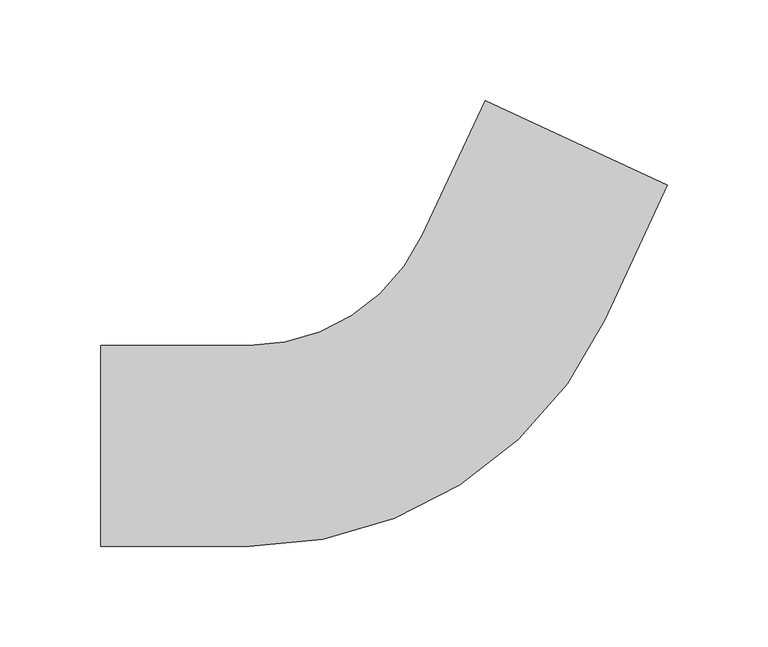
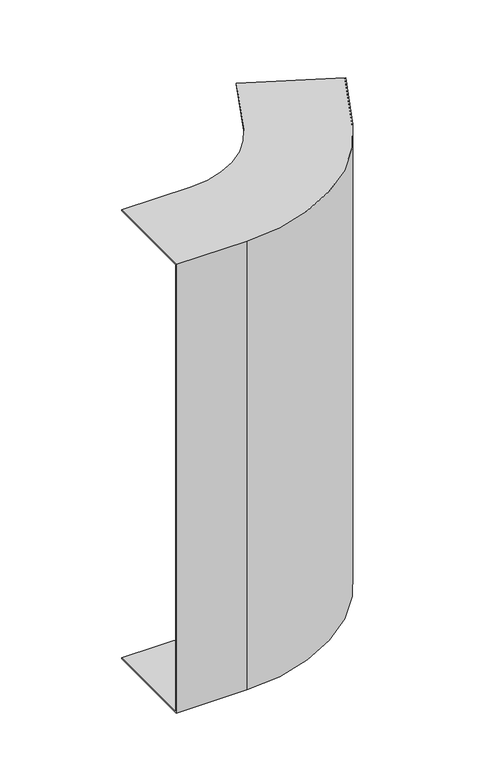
"""IFC4 building model written with IfcOpenShell, lengths in millimetres: cable carrier fitting geometry, BAKS_KK_Vertical bend EXTERNAL_LU : LUNJ_H100."""

from ifc_helpers import new_model, si_unit, frame, origin, place, context, project, spatial, polyline, circle_curve, source, transform, mapped, element, save
from ifc_brep_helpers import plane_surface, cylinder_surface, revolved_surface, advanced_brep


def cable_carrier_fitting_31e9e336(model_context):
    return source(origin(), model_context, "Body", "AdvancedBrep", [
        advanced_brep(
        [(-166.3751878, 50.0, 250.0), (-166.3751878, 50.0, 249.0), (-166.3751878, -49.0, 249.0), (-166.3751878, -49.0, -249.0), (-166.3751878, 50.0, -249.0), (-166.3751878, 50.0, -250.0), (-166.3751878, -50.0, -250.0), (-166.3751878, -50.0, 250.0), (24.9978033, 171.9180414, 250.0), (115.628582, 129.6562152, 250.0), (115.628582, 129.6562152, -250.0), (24.9978033, 171.9180414, -250.0), (24.9978033, 171.9180414, -249.0), (114.7222742, 130.0788335, -249.0), (114.7222742, 130.0788335, 249.0), (24.9978033, 171.9180414, 249.0), (-92.3751878, -50.0, 250.0), (84.3548307, 62.589439, 250.0), (-6.275948, 104.8512651, 250.0), (-92.3751878, 50.0, 250.0), (-92.3751878, -50.0, -250.0), (-92.3751878, 50.0, -250.0), (-6.275948, 104.8512651, -250.0), (84.3548307, 62.589439, -250.0), (-92.3751878, 50.0, -249.0), (-92.3751878, -49.0, -249.0), (83.4485229, 63.0120572, -249.0), (-6.275948, 104.8512651, -249.0), (-92.3751878, -49.0, 249.0), (-92.3751878, 50.0, 249.0), (-6.275948, 104.8512651, 249.0), (83.4485229, 63.0120572, 249.0)],
        [
            (0, 1),
            (1, 2),
            (2, 3),
            (3, 4),
            (4, 5),
            (5, 6),
            (6, 7),
            (7, 0),
            (8, 9),
            (9, 10),
            (10, 11),
            (11, 12),
            (12, 13),
            (13, 14),
            (14, 15),
            (15, 8),
            (7, 16),
            (16, 17, circle_curve(frame((-92.3751878, 145.0, 250.0), z_axis=(0.0, 0.0, 1.0), x_axis=(0.0, -1.0, 0.0)), 195.0)),
            (17, 9),
            (8, 18),
            (18, 19, circle_curve(frame((-92.3751878, 145.0, 250.0), z_axis=(0.0, 0.0, -1.0), x_axis=(0.0, -1.0, 0.0)), 95.0)),
            (19, 0),
            (6, 20),
            (20, 16),
            (5, 21),
            (21, 22, circle_curve(frame((-92.3751878, 145.0, -250.0), z_axis=(0.0, 0.0, 1.0), x_axis=(0.0, -1.0, 0.0)), 95.0)),
            (22, 11),
            (10, 23),
            (23, 20, circle_curve(frame((-92.3751878, 145.0, -250.0), z_axis=(0.0, 0.0, -1.0), x_axis=(0.0, -1.0, 0.0)), 195.0)),
            (4, 24),
            (24, 21),
            (3, 25),
            (25, 26, circle_curve(frame((-92.3751878, 145.0, -249.0), z_axis=(0.0, 0.0, 1.0), x_axis=(0.0, -1.0, 0.0)), 194.0)),
            (26, 13),
            (12, 27),
            (27, 24, circle_curve(frame((-92.3751878, 145.0, -249.0), z_axis=(0.0, 0.0, -1.0), x_axis=(0.0, -1.0, 0.0)), 95.0)),
            (2, 28),
            (28, 25),
            (1, 29),
            (29, 30, circle_curve(frame((-92.3751878, 145.0, 249.0), z_axis=(0.0, 0.0, 1.0), x_axis=(0.0, -1.0, 0.0)), 95.0)),
            (30, 15),
            (14, 31),
            (31, 28, circle_curve(frame((-92.3751878, 145.0, 249.0), z_axis=(0.0, 0.0, -1.0), x_axis=(0.0, -1.0, 0.0)), 194.0)),
            (19, 29),
            (23, 17),
            (27, 22),
            (31, 26),
            (18, 30),
        ],
        [
            plane_surface(frame((-166.3751878, 0.0, 0.0), z_axis=(-1.0, 0.0, 0.0), x_axis=(0.0, 0.0, 1.0))),
            plane_surface(frame((70.3131927, 150.7871283, 0.0), z_axis=(0.422618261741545, 0.9063077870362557, 0.0), x_axis=(0.0, 0.0, 1.0))),
            plane_surface(frame((-166.3751878, -50.0, 250.0), z_axis=(0.0, 0.0, 1.0), x_axis=(1.0, 0.0, 0.0))),
            plane_surface(frame((-166.3751878, -50.0, -250.0), z_axis=(0.0, -1.0, 0.0), x_axis=(1.0, 0.0, 0.0))),
            plane_surface(frame((-166.3751878, 50.0, -250.0), z_axis=(0.0, 0.0, -1.0), x_axis=(1.0, 0.0, 0.0))),
            plane_surface(frame((-166.3751878, 50.0, -249.0), z_axis=(0.0, 1.0, 0.0), x_axis=(1.0, 0.0, 0.0))),
            plane_surface(frame((-166.3751878, -49.0, -249.0), z_axis=(0.0, 0.0, 1.0), x_axis=(1.0, 0.0, 0.0))),
            plane_surface(frame((-166.3751878, -49.0, 249.0), z_axis=(0.0, 1.0, 0.0), x_axis=(1.0, 0.0, 0.0))),
            plane_surface(frame((-166.3751878, 50.0, 249.0), z_axis=(0.0, 0.0, -1.0), x_axis=(1.0, 0.0, 0.0))),
            plane_surface(frame((-166.3751878, 50.0, 250.0), z_axis=(0.0, 1.0, 0.0), x_axis=(1.0, 0.0, 0.0))),
            cylinder_surface(frame((-92.3751878, 145.0, 0.0), z_axis=(0.0, 0.0, 1.0), x_axis=(0.0, -1.0, 0.0)), 195.0),
            revolved_surface(polyline([(-92.3751878, 50.0, -249.0), (-92.3751878, 50.0, -250.0)]), (-92.3751878, 145.0, 0.0), (0.0, 0.0, 1.0)),
            revolved_surface(polyline([(-92.3751878, -49.0, 249.0), (-92.3751878, -49.0, -249.0)]), (-92.3751878, 145.0, 0.0), (0.0, 0.0, 1.0)),
            revolved_surface(polyline([(-92.3751878, 50.0, 250.0), (-92.3751878, 50.0, 249.0)]), (-92.3751878, 145.0, 0.0), (0.0, 0.0, 1.0)),
            plane_surface(frame((84.3548307, 62.589439, -250.0), z_axis=(0.9063077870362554, -0.4226182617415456, 0.0), x_axis=(0.4226182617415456, 0.9063077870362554, 0.0))),
            plane_surface(frame((-6.275948, 104.8512651, -249.0), z_axis=(-0.9063077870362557, 0.422618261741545, 0.0), x_axis=(0.422618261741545, 0.9063077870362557, 0.0))),
            plane_surface(frame((83.4485229, 63.0120572, 249.0), z_axis=(-0.9063077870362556, 0.42261826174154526, 0.0), x_axis=(0.42261826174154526, 0.9063077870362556, 0.0))),
            plane_surface(frame((-6.275948, 104.8512651, 250.0), z_axis=(-0.9063077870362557, 0.422618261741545, 0.0), x_axis=(0.422618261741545, 0.9063077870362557, 0.0))),
        ],
        [
            (0, [[1, 2, 3, 4, 5, 6, 7, 8]]),
            (1, [[9, 10, 11, 12, 13, 14, 15, 16]]),
            (2, [[-8, 17, 18, 19, -9, 20, 21, 22]]),
            (3, [[-7, 23, 24, -17]]),
            (4, [[-6, 25, 26, 27, -11, 28, 29, -23]]),
            (5, [[-5, 30, 31, -25]]),
            (6, [[-4, 32, 33, 34, -13, 35, 36, -30]]),
            (7, [[-3, 37, 38, -32]]),
            (8, [[-2, 39, 40, 41, -15, 42, 43, -37]]),
            (9, [[-1, -22, 44, -39]]),
            (10, [[-18, -24, -29, 45]]),
            (11, [[-26, -31, -36, 46]]),
            (12, [[-33, -38, -43, 47]]),
            (13, [[-40, -44, -21, 48]]),
            (14, [[-45, -28, -10, -19]]),
            (15, [[-46, -35, -12, -27]]),
            (16, [[-47, -42, -14, -34]]),
            (17, [[-48, -20, -16, -41]]),
        ],
    ),
    ])


if __name__ == "__main__":
    model = new_model("IFC4")
    model_context = context("Model", 3, world=origin())
    ifc_project = project(units=[si_unit("LENGTHUNIT", "METRE", prefix="MILLI")], contexts=[model_context])
    site = spatial("IfcSite", under=ifc_project)
    building = spatial("IfcBuilding", under=site)
    placement = place(None, origin())
    cable_carrier_fitting_shape = cable_carrier_fitting_31e9e336(model_context)
    element("IfcCableCarrierFitting", 1, ObjectType="BAKS_KK_Vertical bend EXTERNAL_LU : LUNJ_H100", at=placement, inside=building, context=model_context, shape_type="MappedRepresentation", body=[
        mapped(cable_carrier_fitting_shape, transform((0.0, 0.0, 0.0), x_axis=(1.0, 0.0, 0.0), y_axis=(0.0, 1.0, 0.0), z_axis=(0.0, 0.0, 1.0))),
    ])
    save(model, "model.ifc")
